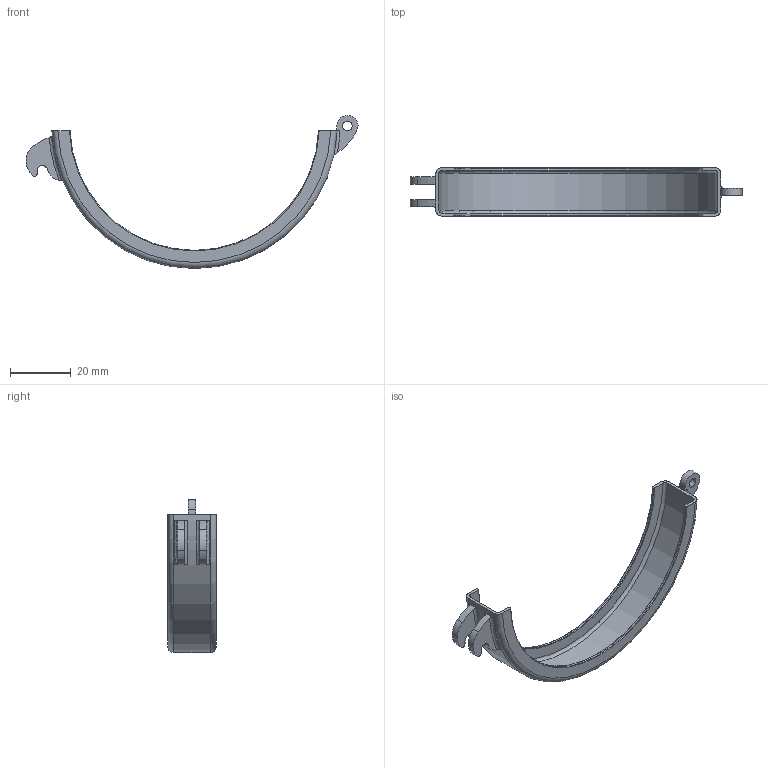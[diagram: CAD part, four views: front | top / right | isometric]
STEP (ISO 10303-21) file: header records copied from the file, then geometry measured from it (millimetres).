
FILE_DESCRIPTION (( 'STEP AP214' ), '1' );
FILE_NAME ('P-01007 - Snap Ring Hook Side - v2.1.2_u-bend.STEP', '2026-06-12T21:55:58', ( '' ), ( '' ), 'SwSTEP 2.0', 'SolidWorks 2023', '' );
FILE_SCHEMA (( 'AUTOMOTIVE_DESIGN' ));
Length unit declared in the file: inch
Products named in the file (1): P-01007 - Snap Ring Hook Side - v2.1.2_u-bend
Bounding box: 109.45 x 16 x 50.47 mm (x, y, z)
Volume: 4028.6 mm3; surface area: 7748.5 mm2
Topology: 1 solids, 1 shells, 52 faces, 144 edges, 96 vertices
Faces by surface type: cylinder 23, torus 16, plane 13
Entity records: 1983 total; most frequent: CARTESIAN_POINT 607, DIRECTION 290, ORIENTED_EDGE 288, EDGE_CURVE 144, AXIS2_PLACEMENT_3D 123, VERTEX_POINT 96, CIRCLE 70, EDGE_LOOP 56
